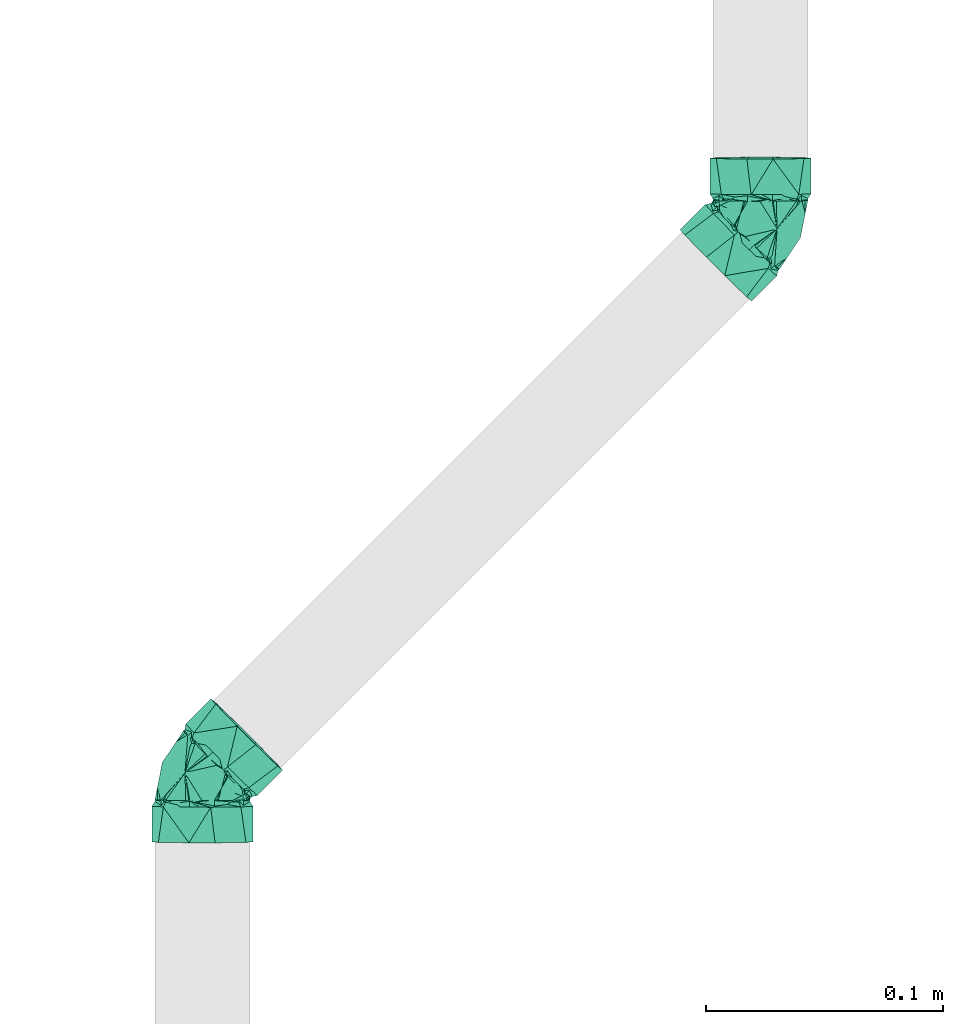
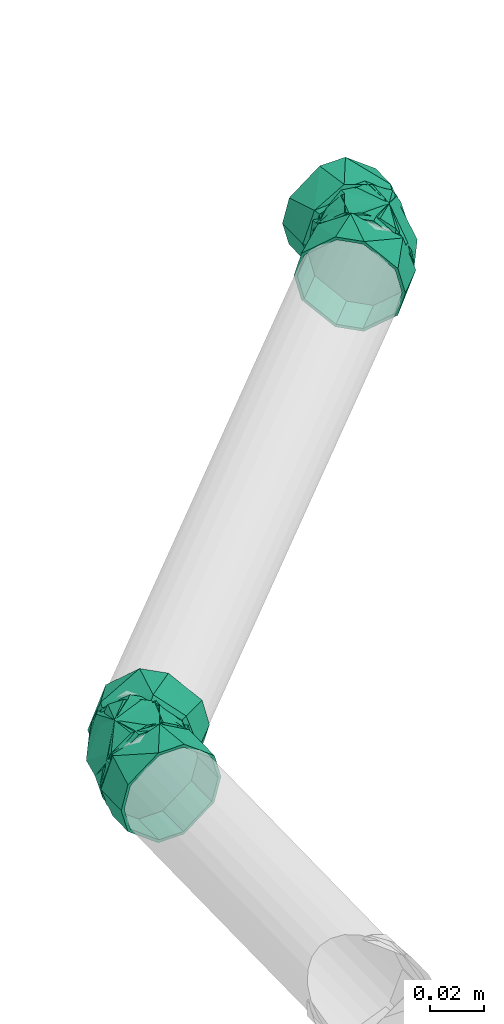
# One storey, part 355 of 589: 2 flow fittings.
"""IFC2X3 building model written with IfcOpenShell, lengths in millimetres."""

import ifcopenshell
import ifcopenshell.guid

model = None  # the IFC model being written
_history = None  # IfcOwnerHistory: only IFC2X3 demands one
_inside = {}  # id of a spatial element -> (the spatial element, [elements in it])
_under = {}  # id of a project, library or spatial element -> (it, [spatial elements below it])
_declared = {}  # id of a project -> (the project, [libraries it declares])
_typed = {}  # id of a type object -> (the type object, [elements of that type])
_made_of = {}  # id of a material, layer set ... -> (it, [elements and type objects made of it])


def new_model(schema):
    """Start an empty IFC model of exactly this schema.

    Asked for "IFC4X3", IfcOpenShell would pick the latest addendum, in which some entities
    have other attributes; the version numbers below select the first issue.
    IFC2X3 requires an IfcOwnerHistory on every rooted entity: one is made here for all.
    """
    global model, _history
    if schema == "IFC4X3":
        model = ifcopenshell.file(schema_version=(4, 3, 0, 0))
    else:
        model = ifcopenshell.file(schema=schema)
    _inside.clear()
    _under.clear()
    _declared.clear()
    _typed.clear()
    _made_of.clear()
    _history = None
    if model.schema == "IFC2X3":
        org = make("IfcOrganization", Name="unknown")
        user = make(
            "IfcPersonAndOrganization",
            ThePerson=make("IfcPerson", FamilyName="unknown"),
            TheOrganization=org,
        )
        app = make(
            "IfcApplication",
            ApplicationDeveloper=org,
            Version="unknown",
            ApplicationFullName="unknown",
            ApplicationIdentifier="unknown",
        )
        _history = make(
            "IfcOwnerHistory",
            OwningUser=user,
            OwningApplication=app,
            ChangeAction="ADDED",
            CreationDate=0,
        )
    return model


def make(cls, **values):
    """One entity of the class cls with the attributes given. An attribute that is None is left unset."""
    return model.create_entity(
        cls, **{name: value for name, value in values.items() if value is not None}
    )


def entity(cls, *values):
    """Any entity or typed value of the class cls, its attributes in the order of the schema. None: left unset."""
    e = model.create_entity(cls)
    for i, value in enumerate(values):
        if value is not None:
            e[i] = value
    return e


def rooted(cls, **values):
    """An entity with a GlobalId (a new one), such as an element, a storey or a relation."""
    return make(cls, GlobalId=ifcopenshell.guid.new(), OwnerHistory=_history, **values)


def si_unit(unit_type, name, prefix=None):
    """IfcSIUnit, for example si_unit("LENGTHUNIT", "METRE", prefix="MILLI")."""
    return make("IfcSIUnit", UnitType=unit_type, Prefix=prefix, Name=name)


def converted_unit(unit_type, name, factor, base, dimensions=None, offset=None):
    """IfcConversionBasedUnit, such as the inch: factor (a typed value) times the base unit."""
    return make(
        "IfcConversionBasedUnit"
        if offset is None
        else "IfcConversionBasedUnitWithOffset",
        ConversionOffset=offset,
        Dimensions=None
        if dimensions is None
        else entity("IfcDimensionalExponents", *dimensions),
        UnitType=unit_type,
        Name=name,
        ConversionFactor=make(
            "IfcMeasureWithUnit", ValueComponent=factor, UnitComponent=base
        ),
    )


def derived_unit(unit_type, elements):
    """IfcDerivedUnit: a product of units, each with its exponent."""
    return make(
        "IfcDerivedUnit",
        Elements=[
            make("IfcDerivedUnitElement", Unit=unit, Exponent=power)
            for unit, power in elements
        ],
        UnitType=unit_type,
    )


def assignment(units):
    """IfcUnitAssignment: the units of a project."""
    return None if units is None else make("IfcUnitAssignment", Units=units)


def point(xyz):
    """IfcCartesianPoint."""
    return None if xyz is None else make("IfcCartesianPoint", Coordinates=xyz)


def direction(xyz):
    """IfcDirection."""
    return None if xyz is None else make("IfcDirection", DirectionRatios=xyz)


def frame(location, z_axis=None, x_axis=None):
    """IfcAxis2Placement3D, a coordinate frame: its origin and axes. An axis left out is left unset."""
    return make(
        "IfcAxis2Placement3D",
        Location=point(location),
        Axis=direction(z_axis),
        RefDirection=direction(x_axis),
    )


def origin():
    """The frame at (0, 0, 0) with its axes left unset."""
    return frame((0.0, 0.0, 0.0))


def place(relative_to, where):
    """IfcLocalPlacement: puts the frame where relative to a parent placement (None: the world)."""
    return make(
        "IfcLocalPlacement", PlacementRelTo=relative_to, RelativePlacement=where
    )


def context(
    kind, dimensions, precision=None, world=None, true_north=None, identifier=None
):
    """IfcGeometricRepresentationContext, for example the 3D "Model" context."""
    return make(
        "IfcGeometricRepresentationContext",
        ContextIdentifier=identifier,
        ContextType=kind,
        CoordinateSpaceDimension=dimensions,
        Precision=precision,
        WorldCoordinateSystem=world,
        TrueNorth=true_north,
    )


def subcontext(parent, identifier, kind, view, scale=None):
    """IfcGeometricRepresentationSubContext, for example "Body" below "Model"."""
    return make(
        "IfcGeometricRepresentationSubContext",
        ContextIdentifier=identifier,
        ContextType=kind,
        ParentContext=parent,
        TargetScale=scale,
        TargetView=view,
    )


def project(units=None, contexts=None):
    """IfcProject with its units and contexts."""
    return rooted(
        "IfcProject",
        Name="project",
        RepresentationContexts=contexts,
        UnitsInContext=assignment(units),
    )


def spatial(cls, under=None, at=None, **own):
    """A site, building, storey or space (cls), placed at a placement, below another one or the project."""
    s = rooted(cls, ObjectPlacement=at, **own)
    if under is not None:
        _under.setdefault(under.id(), (under, []))[1].append(s)
    return s


def faces_of(points, faces, orient=None, outer=None):
    """IfcFace entities. A face is a list of loops; a loop is a list of indices into points, from 0.

    orient and outer hold one flag for each loop. By default every Orientation is true, the
    first loop of a face is its IfcFaceOuterBound and the others are IfcFaceBound.
    """
    made = []
    for i, loops in enumerate(faces):
        bounds = []
        for j, loop in enumerate(loops):
            is_outer = j == 0 if outer is None else outer[i][j]
            bounds.append(
                make(
                    "IfcFaceOuterBound" if is_outer else "IfcFaceBound",
                    Bound=make("IfcPolyLoop", Polygon=[points[k] for k in loop]),
                    Orientation=True if orient is None else orient[i][j],
                )
            )
        made.append(make("IfcFace", Bounds=bounds))
    return made


def faceted_brep(points, faces, orient=None, outer=None, voids=None):
    """IfcFacetedBrep: a solid bounded by flat faces; with voids (closed shells), ...WithVoids."""
    shared = [point(p) for p in points]
    hull = make("IfcClosedShell", CfsFaces=faces_of(shared, faces, orient, outer))
    if voids is None:
        return make("IfcFacetedBrep", Outer=hull)
    return make(
        "IfcFacetedBrepWithVoids",
        Outer=hull,
        Voids=[
            make(cls, CfsFaces=faces_of(shared, fs, o, b)) for cls, fs, o, b in voids
        ],
    )


def shape(context_of_items, identifier, shape_type, items):
    """IfcShapeRepresentation: the items that make up one representation, for example the "Body"."""
    return make(
        "IfcShapeRepresentation",
        ContextOfItems=context_of_items,
        RepresentationIdentifier=identifier,
        RepresentationType=shape_type,
        Items=items,
    )


def source(mapping_origin, context_of_items, identifier, shape_type, items):
    """IfcRepresentationMap: a shape defined once, which mapped items show again and again."""
    return make(
        "IfcRepresentationMap",
        MappingOrigin=mapping_origin,
        MappedRepresentation=shape(context_of_items, identifier, shape_type, items),
    )


def transform(
    local_origin,
    x_axis=None,
    y_axis=None,
    z_axis=None,
    scale=None,
    scale2=None,
    scale3=None,
    uniform=True,
):
    """IfcCartesianTransformationOperator3D, or its non-uniform kind. x_axis, y_axis, z_axis: its Axis1, 2, 3."""
    if uniform:
        return make(
            "IfcCartesianTransformationOperator3D",
            Axis1=direction(x_axis),
            Axis2=direction(y_axis),
            LocalOrigin=point(local_origin),
            Scale=scale,
            Axis3=direction(z_axis),
        )
    return make(
        "IfcCartesianTransformationOperator3DnonUniform",
        Axis1=direction(x_axis),
        Axis2=direction(y_axis),
        LocalOrigin=point(local_origin),
        Scale=scale,
        Axis3=direction(z_axis),
        Scale2=scale2,
        Scale3=scale3,
    )


def mapped(mapping_source, mapping_target):
    """IfcMappedItem: shows the shape of a source again, moved by a transform."""
    return make(
        "IfcMappedItem", MappingSource=mapping_source, MappingTarget=mapping_target
    )


def material(Name=None, Category=None):
    """IfcMaterial."""
    return make("IfcMaterial", Name=Name, Category=Category)


def made_of(thing, what):
    """Note that an element or type object is made of a material, layer set ...; save() writes the relation."""
    if what is not None:
        _made_of.setdefault(what.id(), (what, []))[1].append(thing)
    return thing


def type_object(cls, material=None, **own):
    """A type object (cls), such as IfcWallType, which elements share."""
    return made_of(rooted(cls, **own), material)


def type_shapes(of_type, sources):
    """Give a type object the sources (RepresentationMaps) that its elements show as mapped items."""
    of_type.RepresentationMaps = sources


def element(
    cls,
    number,
    at=None,
    inside=None,
    cuts=None,
    type_object=None,
    material=None,
    context=None,
    identifier="Body",
    shape_type=None,
    held_by="IfcProductDefinitionShape",
    body=None,
    shapes=None,
    **own,
):
    """One element of the class cls, such as IfcWall. Its Tag is "e" and its number.

    at: its placement. inside: the storey or other place that contains it. cuts: it is an
    opening in that element (IfcRelVoidsElement). A single representation is given by context,
    identifier, shape_type and body (its items); several are given by shapes. held_by: the class
    of the entity that holds the representations. save() writes the other relations.
    """
    e = rooted(cls, Tag="e%d" % number, ObjectPlacement=at, **own)
    if body is not None:
        shapes = [shape(context, identifier, shape_type, body)]
    if shapes is not None:
        e.Representation = make(held_by, Representations=shapes)
    if inside is not None:
        _inside.setdefault(inside.id(), (inside, []))[1].append(e)
    if cuts is not None:
        rooted(
            "IfcRelVoidsElement", RelatingBuildingElement=cuts, RelatedOpeningElement=e
        )
    if type_object is not None:
        _typed.setdefault(type_object.id(), (type_object, []))[1].append(e)
    return made_of(e, material)


def aggregate(whole, parts):
    """IfcRelAggregates: a whole, such as a stair, and the parts it consists of."""
    return rooted("IfcRelAggregates", RelatingObject=whole, RelatedObjects=parts)


def save(model, path):
    """Write the relations noted so far, then the file.

    IfcRelAggregates (storeys below a building ...), IfcRelContainedInSpatialStructure (elements
    in a storey), IfcRelDefinesByType, IfcRelAssociatesMaterial and IfcRelDeclares: one each for
    every whole, place, type object, material and project.
    """
    for whole, parts in _under.values():
        aggregate(whole, parts)
    for where, things in _inside.values():
        rooted(
            "IfcRelContainedInSpatialStructure",
            RelatedElements=things,
            RelatingStructure=where,
        )
    for kind, things in _typed.values():
        rooted("IfcRelDefinesByType", RelatedObjects=things, RelatingType=kind)
    for what, things in _made_of.values():
        rooted("IfcRelAssociatesMaterial", RelatedObjects=things, RelatingMaterial=what)
    for by, libraries in _declared.values():
        rooted("IfcRelDeclares", RelatingContext=by, RelatedDefinitions=libraries)
    model.write(path)


model = new_model("IFC2X3")

# Units and contexts
model_context = context("Model", 3, precision=0.01, world=origin(), true_north=direction((6.123031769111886e-17, 1.0)))
body_context = subcontext(model_context, "Body", "Model", "MODEL_VIEW")
ifc_project = project(units=[si_unit("LENGTHUNIT", "METRE", prefix="MILLI"), si_unit("AREAUNIT", "SQUARE_METRE"), si_unit("VOLUMEUNIT", "CUBIC_METRE"), converted_unit("PLANEANGLEUNIT", "DEGREE", entity("IfcRatioMeasure", 0.017453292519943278), si_unit("PLANEANGLEUNIT", "RADIAN"), dimensions=[0, 0, 0, 0, 0, 0, 0]), si_unit("MASSUNIT", "GRAM", prefix="KILO"), derived_unit("MASSDENSITYUNIT", [(si_unit("MASSUNIT", "GRAM", prefix="KILO"), 1), (si_unit("LENGTHUNIT", "METRE"), -3)]), derived_unit("IONCONCENTRATIONUNIT", [(si_unit("MASSUNIT", "GRAM", prefix="KILO"), 1), (si_unit("LENGTHUNIT", "METRE"), -3)]), derived_unit("MOMENTOFINERTIAUNIT", [(si_unit("LENGTHUNIT", "METRE"), 4)]), si_unit("TIMEUNIT", "SECOND"), si_unit("FREQUENCYUNIT", "HERTZ"), si_unit("THERMODYNAMICTEMPERATUREUNIT", "DEGREE_CELSIUS"), derived_unit("THERMALTRANSMITTANCEUNIT", [(si_unit("MASSUNIT", "GRAM", prefix="KILO"), 1), (si_unit("THERMODYNAMICTEMPERATUREUNIT", "KELVIN"), -1), (si_unit("TIMEUNIT", "SECOND"), -3)]), derived_unit("THERMALCONDUCTANCEUNIT", [(si_unit("MASSUNIT", "GRAM", prefix="KILO"), 1), (si_unit("THERMODYNAMICTEMPERATUREUNIT", "KELVIN"), -1), (si_unit("TIMEUNIT", "SECOND"), -3), (si_unit("LENGTHUNIT", "METRE"), 1)]), derived_unit("VOLUMETRICFLOWRATEUNIT", [(si_unit("LENGTHUNIT", "METRE"), 3), (si_unit("TIMEUNIT", "SECOND"), -1)]), derived_unit("MASSFLOWRATEUNIT", [(si_unit("MASSUNIT", "GRAM", prefix="KILO"), 1), (si_unit("TIMEUNIT", "SECOND"), -1)]), derived_unit("ROTATIONALFREQUENCYUNIT", [(si_unit("TIMEUNIT", "SECOND"), -1)]), si_unit("ELECTRICCURRENTUNIT", "AMPERE"), si_unit("ELECTRICVOLTAGEUNIT", "VOLT"), si_unit("POWERUNIT", "WATT"), si_unit("FORCEUNIT", "NEWTON", prefix="KILO"), si_unit("ILLUMINANCEUNIT", "LUX"), si_unit("LUMINOUSFLUXUNIT", "LUMEN"), si_unit("LUMINOUSINTENSITYUNIT", "CANDELA"), derived_unit("USERDEFINED", [(si_unit("MASSUNIT", "GRAM", prefix="KILO"), -1), (si_unit("LENGTHUNIT", "METRE"), -2), (si_unit("TIMEUNIT", "SECOND"), 3), (si_unit("LUMINOUSFLUXUNIT", "LUMEN"), 1)]), derived_unit("USERDEFINED", [(si_unit("MASSUNIT", "GRAM", prefix="KILO"), 1), (si_unit("TIMEUNIT", "SECOND"), -3), (si_unit("LENGTHUNIT", "METRE"), 3), (si_unit("ELECTRICCURRENTUNIT", "AMPERE"), -2)]), derived_unit("SOUNDPOWERUNIT", [(si_unit("MASSUNIT", "GRAM", prefix="KILO"), 1), (si_unit("TIMEUNIT", "SECOND"), -3), (si_unit("LENGTHUNIT", "METRE"), 2)]), derived_unit("SOUNDPRESSUREUNIT", [(si_unit("MASSUNIT", "GRAM", prefix="KILO"), 1), (si_unit("LENGTHUNIT", "METRE"), -1), (si_unit("TIMEUNIT", "SECOND"), -2)]), derived_unit("LINEARVELOCITYUNIT", [(si_unit("LENGTHUNIT", "METRE"), 1), (si_unit("TIMEUNIT", "SECOND"), -1)]), si_unit("PRESSUREUNIT", "PASCAL"), derived_unit("USERDEFINED", [(si_unit("MASSUNIT", "GRAM", prefix="KILO"), 1), (si_unit("LENGTHUNIT", "METRE"), -2), (si_unit("TIMEUNIT", "SECOND"), -2)]), derived_unit("LINEARFORCEUNIT", [(si_unit("MASSUNIT", "GRAM", prefix="KILO"), 1), (si_unit("TIMEUNIT", "SECOND"), -2)]), derived_unit("PLANARFORCEUNIT", [(si_unit("MASSUNIT", "GRAM", prefix="KILO"), 1), (si_unit("LENGTHUNIT", "METRE"), -1), (si_unit("TIMEUNIT", "SECOND"), -2)]), derived_unit("SPECIFICHEATCAPACITYUNIT", [(si_unit("THERMODYNAMICTEMPERATUREUNIT", "KELVIN"), -1), (si_unit("LENGTHUNIT", "METRE"), 2), (si_unit("TIMEUNIT", "SECOND"), -2)]), derived_unit("HEATINGVALUEUNIT", [(si_unit("LENGTHUNIT", "METRE"), 2), (si_unit("TIMEUNIT", "SECOND"), -2)]), derived_unit("VAPORPERMEABILITYUNIT", [(si_unit("LENGTHUNIT", "METRE"), -1), (si_unit("TIMEUNIT", "SECOND"), 1)]), derived_unit("DYNAMICVISCOSITYUNIT", [(si_unit("MASSUNIT", "GRAM", prefix="KILO"), 1), (si_unit("TIMEUNIT", "SECOND"), -1), (si_unit("LENGTHUNIT", "METRE"), -1)]), derived_unit("THERMALEXPANSIONCOEFFICIENTUNIT", [(si_unit("THERMODYNAMICTEMPERATUREUNIT", "KELVIN"), -1)]), derived_unit("MODULUSOFELASTICITYUNIT", [(si_unit("MASSUNIT", "GRAM", prefix="KILO"), 1), (si_unit("LENGTHUNIT", "METRE"), -1), (si_unit("TIMEUNIT", "SECOND"), -2)]), derived_unit("ISOTHERMALMOISTURECAPACITYUNIT", [(si_unit("LENGTHUNIT", "METRE"), 3), (si_unit("MASSUNIT", "GRAM", prefix="KILO"), -1)]), derived_unit("MOISTUREDIFFUSIVITYUNIT", [(si_unit("TIMEUNIT", "SECOND"), -1), (si_unit("LENGTHUNIT", "METRE"), 2)])], contexts=[model_context])

# Site, building, storey
site_placement = place(None, origin())
site = spatial("IfcSite", under=ifc_project, at=site_placement, Name="Default", CompositionType="ELEMENT")
building_placement = place(site_placement, origin())
building = spatial("IfcBuilding", under=site, at=building_placement, CompositionType="ELEMENT")
storey_placement = place(building_placement, frame((0.0, 0.0, 100.0)))
storey = spatial("IfcBuildingStorey", under=building, at=storey_placement, Name="TÉRREO", CompositionType="ELEMENT", Elevation=100.0)

# Flow fittings
ifc_material = material(Name="PVC Série Normal")
pipe_fitting_type = type_object("IfcPipeFittingType", Name="PVC Esgoto_Joelho 45_90_Rodrigo MEP:a. Série Normal", PredefinedType="NOTDEFINED", material=ifc_material)
shared_shape = source(origin(), body_context, "Body", "Brep", [
    faceted_brep([(2.4906876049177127, 9.80915852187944, 19.318516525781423), (-6.095084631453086, 18.39777540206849, 10.0), (-7.989457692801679, 20.29277610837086, 0.0), (-6.095084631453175, 18.397775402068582, -10.0), (2.4906876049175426, 9.80915852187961, -19.31851652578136), (9.809983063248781, 2.4874380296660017, -19.318516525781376), (18.39575529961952, -6.101178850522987, -10.0), (20.290128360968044, -7.99617955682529, 0.0), (18.39575529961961, -6.101178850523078, 10.0), (9.809983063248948, 2.4874380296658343, 19.318516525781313), (22.27035525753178, -6.016608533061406, 0.0), (20.37598219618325, -4.121607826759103, -10.0), (11.790209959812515, 4.467009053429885, -19.318516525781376), (4.470914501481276, 11.788729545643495, -19.31851652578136), (-4.1148577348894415, 20.377346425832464, -10.0), (-6.009230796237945, 22.272347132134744, 0.0), (-4.114857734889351, 20.377346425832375, 10.0), (4.470914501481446, 11.788729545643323, 19.318516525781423), (11.790209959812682, 4.467009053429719, 19.318516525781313), (20.37598219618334, -4.12160782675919, 10.0)], [[[0, 1, 2, 3, 4, 5, 6, 7, 8, 9]], [[10, 11, 12, 13, 14, 15, 16, 17, 18, 19]], [[7, 10, 19, 8]], [[8, 19, 18, 9]], [[18, 17, 0, 9]], [[0, 17, 16, 1]], [[1, 16, 15, 2]], [[2, 15, 14, 3]], [[3, 14, 13, 4]], [[13, 12, 5, 4]], [[5, 12, 11, 6]], [[6, 11, 10, 7]]]),
    faceted_brep([(-11.496447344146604, -17.320508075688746, -10.0), (-11.496447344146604, -20.0, 0.0), (-11.496447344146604, -17.320508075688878, 10.0), (-11.496447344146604, -5.176380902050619, 19.318516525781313), (-11.496447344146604, 5.1763809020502, 19.318516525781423), (-11.496447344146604, 17.320508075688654, 10.0), (-11.496447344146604, 20.0, 0.0), (-11.496447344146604, 17.320508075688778, -10.0), (-11.496447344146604, 5.17638090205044, -19.31851652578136), (-11.496447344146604, -5.176380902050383, -19.318516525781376), (-8.696447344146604, 5.17638090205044, -19.31851652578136), (-8.696447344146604, 17.320508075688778, -10.0), (-8.696447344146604, 20.0, 0.0), (-8.696447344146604, 17.320508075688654, 10.0), (-8.696447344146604, 5.1763809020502, 19.318516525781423), (-8.696447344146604, -5.176380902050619, 19.318516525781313), (-8.696447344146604, -17.320508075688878, 10.0), (-8.696447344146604, -20.0, 0.0), (-8.696447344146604, -17.320508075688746, -10.0), (-8.696447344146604, -5.176380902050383, -19.318516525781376)], [[[0, 1, 2, 3, 4, 5, 6, 7, 8, 9]], [[10, 11, 12, 13, 14, 15, 16, 17, 18, 19]], [[1, 17, 16, 2]], [[2, 16, 15, 3]], [[15, 14, 4, 3]], [[4, 14, 13, 5]], [[5, 13, 12, 6]], [[6, 12, 11, 7]], [[7, 11, 10, 8]], [[10, 19, 9, 8]], [[9, 19, 18, 0]], [[0, 18, 17, 1]]]),
    faceted_brep([(-26.496447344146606, -5.512845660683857, -20.574220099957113), (-26.496447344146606, -5.176380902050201, -19.318516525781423), (-26.496447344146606, 5.176380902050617, -19.318516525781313), (-26.496447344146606, -18.44634110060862, -10.649999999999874), (-26.496447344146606, 5.512845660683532, -20.574220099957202), (-26.496447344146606, -17.320508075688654, -10.0), (-26.496447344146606, -20.0, 0.0), (-26.496447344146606, -21.3, 0.0), (-26.496447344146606, -17.32050807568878, 10.0), (-26.496447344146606, -18.446341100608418, 10.65000000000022), (-26.496447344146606, -5.176380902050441, 19.31851652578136), (-26.496447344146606, -5.512845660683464, 20.574220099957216), (-26.496447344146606, 5.176380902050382, 19.318516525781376), (-26.496447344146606, 5.512845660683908, 20.5742200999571), (-26.496447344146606, 17.320508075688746, 10.0), (-26.496447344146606, 18.446341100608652, 10.649999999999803), (-26.496447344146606, 21.3, 0.0), (-26.496447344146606, 20.0, 0.0), (-26.496447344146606, 18.44634110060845, -10.650000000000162), (-26.496447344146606, 17.320508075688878, -10.0), (-11.496447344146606, 17.320508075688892, -10.0), (-11.496447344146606, 20.0, 0.0), (-11.496447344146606, 5.17638090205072, -19.318516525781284), (-11.496447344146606, -5.176380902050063, -19.31851652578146), (-11.496447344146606, -17.320508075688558, -10.0), (-11.496447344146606, -20.0, 0.0), (-11.496447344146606, -17.320508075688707, 10.0), (-11.496447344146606, -5.176380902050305, 19.318516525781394), (-11.496447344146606, 5.176380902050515, 19.318516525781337), (-11.496447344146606, 17.320508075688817, 10.0), (-11.496447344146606, 21.3, 0.0), (-11.496447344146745, 16.315983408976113, 13.692285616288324), (-11.496447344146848, 3.696367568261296, 20.976817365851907), (-11.496447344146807, -16.31941754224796, 13.688192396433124), (-11.496447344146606, -21.3, 0.0), (-11.496447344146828, -6.311524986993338, 17.3325048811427), (-11.496447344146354, -16.319417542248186, -13.688192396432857), (-11.496447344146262, -3.7016293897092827, -20.975889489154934), (-11.49644734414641, 16.315983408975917, -13.692285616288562), (-11.496447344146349, 6.307177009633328, -17.334087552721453), (-9.496447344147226, -3.470767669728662, -19.69654212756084), (-9.496447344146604, 20.0, 0.0), (-9.496447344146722, 18.830849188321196, -3.2131907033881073), (-9.496447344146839, 17.66169837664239, -6.426381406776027), (-9.496447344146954, 16.4925475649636, -9.639572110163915), (-9.496447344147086, 15.323396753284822, -12.852762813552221), (-9.496447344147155, 5.9263145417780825, -16.27465247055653), (-9.496447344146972, -15.320172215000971, -12.856606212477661), (-9.496447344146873, -16.490129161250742, -9.642454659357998), (-9.496447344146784, -17.660086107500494, -6.428303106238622), (-9.496447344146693, -18.830043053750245, -3.214151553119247), (-9.496447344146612, -20.0, 0.0), (-9.496447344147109, 10.624855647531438, -14.563707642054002), (-9.496447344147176, 1.2277734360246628, -17.98559729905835), (-9.49644734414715, -6.433118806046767, -17.98655814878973), (-9.496447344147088, -9.395469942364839, -16.276574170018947), (-9.496447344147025, -12.357821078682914, -14.566590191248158), (-9.49644734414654, -18.830043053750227, 3.2141515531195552), (-9.496447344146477, -17.660086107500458, 6.428303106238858), (-9.49644734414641, -16.490129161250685, 9.64245465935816), (-9.496447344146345, -15.3201722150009, 12.856606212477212), (-9.496447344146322, -12.970687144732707, 13.711489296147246), (-9.496447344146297, -10.621202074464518, 14.566372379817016), (-9.496447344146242, -5.922231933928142, 16.27613854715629), (-9.496447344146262, 15.323396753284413, 12.852762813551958), (-9.496447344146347, 16.49254756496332, 9.63957211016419), (-9.496447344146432, 17.661698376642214, 6.426381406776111), (-9.496447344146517, 18.830849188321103, 3.213190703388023), (-9.496447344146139, 3.47570834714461, 19.695670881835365), (-9.496447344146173, 6.43763044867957, 17.984943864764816), (-9.496447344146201, 9.399552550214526, 16.274216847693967), (-9.496447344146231, 12.361474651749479, 14.563489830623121), (-9.496447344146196, -1.2232617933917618, 17.985904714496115), (-8.696447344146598, 17.057389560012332, 9.848048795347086), (-8.696447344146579, 6.840479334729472, 18.793824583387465), (-8.696447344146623, -9.848049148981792, 17.057385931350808), (-8.696447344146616, -3.420183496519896, 19.396932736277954), (-8.696447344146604, 0.0, 20.0), (-8.696447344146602, 19.396930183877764, 3.4201905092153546), (-8.696447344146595, 15.320918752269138, 12.855716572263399), (-8.696447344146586, 11.080699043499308, 15.82477057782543), (-8.696447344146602, 18.793860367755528, 6.840381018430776), (-8.696447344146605, -18.793848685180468, 6.840413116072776), (-8.696447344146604, 20.0, 0.0), (-8.696447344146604, -20.0, 0.0), (-8.69644734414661, -15.824789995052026, 11.080659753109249), (-8.696447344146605, -19.156924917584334, 4.781308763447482), (-8.696447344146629, -6.84036699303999, 18.793865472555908), (-8.696447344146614, -14.34026064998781, 13.200783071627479), (-8.696447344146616, -12.855731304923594, 15.320906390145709), (-8.696447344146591, 3.420239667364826, 19.396912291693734), (-8.696447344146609, -17.057361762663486, -9.848091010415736), (-8.696447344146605, -18.793848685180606, -6.840413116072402), (-8.696447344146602, 19.39693018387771, -3.4201905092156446), (-8.696447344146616, -3.420183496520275, -19.396932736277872), (-8.696447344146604, 0.0, -20.0), (-8.696447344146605, -19.396924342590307, -3.4202065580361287), (-8.696447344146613, -15.320874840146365, -12.85576890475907), (-8.69644734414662, -11.080620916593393, -15.824817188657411), (-8.696447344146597, 15.824828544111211, -11.080616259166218), (-8.696447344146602, 18.79386036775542, -6.84038101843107), (-8.696447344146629, -6.840366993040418, -18.79386547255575), (-8.696447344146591, 12.855796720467, -15.320851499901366), (-8.696447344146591, 3.420239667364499, -19.396912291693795), (-8.696447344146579, 6.840479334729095, -18.7938245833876), (-8.696447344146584, 9.848138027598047, -17.05733804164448), (9.809983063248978, 2.4874380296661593, -19.318516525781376), (2.4906876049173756, 9.809158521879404, -19.31851652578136), (-6.095084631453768, 18.397775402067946, -10.0), (-7.989457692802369, 20.292776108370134, 0.0), (-6.095084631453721, 18.3977754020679, 10.0), (2.490687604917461, 9.809158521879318, 19.31851652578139), (9.809983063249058, 2.487438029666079, 19.318516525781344), (18.395755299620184, -6.101178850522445, 10.0), (20.29012836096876, -7.996179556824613, 0.0), (18.39575529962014, -6.101178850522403, -10.0), (-2.9114305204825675, -18.849537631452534, 0.0), (15.385461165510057, -11.272492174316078, 0.0), (2.8664382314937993, -7.211469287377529, 17.605576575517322), (6.9904363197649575, -16.880360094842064, 0.0), (-8.313840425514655, 20.076088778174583, 0.0), (2.8664382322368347, -7.211469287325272, -17.605576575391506)], [[[0, 1, 2]], [[1, 0, 3]], [[2, 4, 0]], [[3, 5, 1]], [[3, 6, 5]], [[6, 3, 7]], [[8, 6, 7]], [[8, 7, 9]], [[9, 10, 8]], [[9, 11, 10]], [[10, 11, 12]], [[13, 12, 11]], [[13, 14, 12]], [[14, 13, 15]], [[16, 14, 15]], [[17, 14, 16]], [[18, 17, 16]], [[18, 19, 17]], [[19, 18, 4]], [[4, 2, 19]], [[20, 21, 17, 19]], [[22, 20, 19, 2]], [[2, 1, 23, 22]], [[24, 23, 1, 5]], [[25, 24, 5, 6]], [[26, 25, 6, 8]], [[27, 26, 8, 10]], [[10, 12, 28, 27]], [[29, 28, 12, 14]], [[21, 29, 14, 17]], [[16, 15, 30]], [[15, 31, 30]], [[31, 15, 13]], [[31, 13, 32]], [[33, 11, 9]], [[34, 9, 7]], [[11, 33, 35, 32]], [[33, 9, 34]], [[11, 32, 13]], [[7, 3, 34]], [[3, 36, 34]], [[36, 3, 0]], [[36, 0, 37]], [[38, 4, 18]], [[30, 18, 16]], [[4, 38, 39, 37]], [[38, 18, 30]], [[4, 37, 0]], [[28, 29, 21, 20, 22, 23, 24, 25, 26, 27]], [[39, 40, 37]], [[30, 41, 42, 43, 44, 45]], [[30, 45, 38]], [[38, 46, 39]], [[36, 47, 48, 49, 50, 51]], [[38, 45, 52, 46]], [[36, 37, 47]], [[34, 36, 51]], [[39, 46, 53, 40]], [[37, 40, 54, 55, 56, 47]], [[33, 51, 57, 58, 59, 60]], [[33, 34, 51]], [[60, 35, 33]], [[35, 60, 61, 62, 63]], [[63, 32, 35]], [[30, 64, 65, 66, 67, 41]], [[31, 68, 69, 70, 71, 64]], [[31, 64, 30]], [[32, 63, 72, 68]], [[68, 31, 32]], [[64, 73, 65]], [[74, 70, 69, 68]], [[62, 75, 63]], [[76, 77, 72]], [[78, 67, 66]], [[79, 71, 80]], [[65, 81, 66]], [[64, 79, 73]], [[82, 59, 58]], [[83, 41, 67]], [[84, 57, 51]], [[60, 59, 85]], [[83, 67, 78]], [[86, 82, 58]], [[81, 65, 73]], [[63, 87, 76]], [[63, 76, 72]], [[63, 75, 87]], [[82, 85, 59]], [[68, 72, 77]], [[66, 81, 78]], [[61, 88, 89]], [[89, 62, 61]], [[68, 77, 90, 74]], [[84, 86, 57]], [[86, 58, 57]], [[89, 75, 62]], [[61, 60, 88]], [[60, 85, 88]], [[74, 80, 70]], [[71, 79, 64]], [[71, 70, 80]], [[49, 91, 92]], [[93, 43, 42]], [[54, 40, 94]], [[40, 53, 95]], [[51, 96, 84]], [[97, 56, 98]], [[48, 97, 91]], [[91, 49, 48]], [[99, 44, 100]], [[101, 55, 54]], [[96, 51, 50]], [[83, 42, 41]], [[45, 99, 102]], [[49, 92, 50]], [[42, 83, 93]], [[48, 47, 97]], [[53, 103, 95]], [[104, 103, 46]], [[52, 105, 46]], [[44, 99, 45]], [[46, 103, 53]], [[50, 92, 96]], [[105, 52, 102]], [[44, 43, 100]], [[40, 95, 94]], [[100, 43, 93]], [[102, 52, 45]], [[105, 104, 46]], [[101, 98, 55]], [[54, 94, 101]], [[56, 97, 47]], [[56, 55, 98]], [[106, 107, 108, 109, 110, 111, 112, 113, 114, 115]], [[116, 89, 88, 85, 82]], [[117, 118, 119]], [[118, 89, 119]], [[118, 77, 76, 87]], [[116, 82, 86, 84]], [[118, 74, 90, 77]], [[110, 81, 73, 79]], [[111, 79, 80, 74]], [[118, 87, 75, 89]], [[89, 116, 119]], [[74, 118, 111]], [[118, 113, 112]], [[118, 117, 113]], [[120, 83, 78, 81]], [[81, 109, 120]], [[109, 81, 110]], [[117, 114, 113]], [[111, 110, 79]], [[111, 118, 112]], [[104, 107, 121]], [[116, 92, 91, 97]], [[108, 102, 99, 100]], [[115, 121, 106]], [[97, 121, 119]], [[107, 104, 105, 102]], [[116, 84, 96, 92]], [[97, 119, 116]], [[121, 97, 98, 101]], [[121, 95, 103, 104]], [[109, 100, 120]], [[108, 100, 109]], [[107, 102, 108]], [[121, 101, 94, 95]], [[107, 106, 121]], [[119, 121, 117]], [[115, 117, 121]], [[115, 114, 117]], [[120, 100, 93, 83]]]),
    faceted_brep([(-6.009230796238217, 22.27234713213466, 0.0), (-4.114857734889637, 20.37734642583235, 10.0), (4.470914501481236, 11.788729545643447, 19.318516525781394), (11.790209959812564, 4.467009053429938, 19.318516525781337), (20.375982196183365, -4.1216078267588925, 10.0), (22.27035525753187, -6.016608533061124, 0.0), (20.37598219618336, -4.121607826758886, -10.0), (11.790209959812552, 4.467009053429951, -19.318516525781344), (4.470914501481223, 11.788729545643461, -19.31851652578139), (-4.114857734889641, 20.377346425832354, -10.0), (23.18944180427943, -6.935999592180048, 0.0), (20.855907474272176, -7.430587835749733, 0.0), (20.02932994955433, -6.603736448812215, -3.213190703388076), (19.20275242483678, -5.7768850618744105, -6.426381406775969), (18.376174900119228, -4.950033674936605, -9.639572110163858), (17.54959737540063, -4.123182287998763, -12.852762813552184), (3.6683793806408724, 12.591530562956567, -17.332504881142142), (10.743855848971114, 5.513709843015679, -20.976817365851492), (4.26231762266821, 9.168499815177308, -19.69654212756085), (19.665793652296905, -3.411183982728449, -13.692285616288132), (-4.115088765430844, 17.54868181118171, -12.856606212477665), (-3.407097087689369, 19.669351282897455, -13.688192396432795), (2.167966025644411, 11.263545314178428, -17.986558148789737), (0.0736144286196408, 13.358590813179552, -16.27657417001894), (-2.0207371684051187, 15.453636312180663, -14.566590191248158), (10.905957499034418, 2.5226587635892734, -16.274652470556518), (-4.942236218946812, 18.37610331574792, -9.642454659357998), (-5.7693836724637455, 19.203524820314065, -6.428303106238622), (-6.596531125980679, 20.030946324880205, -3.2141515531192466), (-7.423678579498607, 20.858367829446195, 0.0), (-6.928317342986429, 23.191738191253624, 0.0), (14.227777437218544, -0.800261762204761, -14.563707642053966), (7.584137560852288, 5.845579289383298, -17.98559729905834), (-3.4070970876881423, 19.669351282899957, 13.688192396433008), (-6.596531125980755, 20.030946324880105, 3.2141515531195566), (-5.7693836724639, 19.20352482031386, 6.428303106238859), (-4.942236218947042, 18.37610331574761, 9.64245465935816), (-4.115088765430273, 17.548681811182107, 12.856606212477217), (12.589671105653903, 3.6672830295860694, 17.334087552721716), (5.513548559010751, 10.745750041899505, 20.97588948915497), (9.173404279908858, 4.255786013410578, 19.695670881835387), (17.549597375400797, -4.123182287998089, 12.852762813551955), (19.66579365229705, -3.4111839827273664, 13.692285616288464), (11.267452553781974, 2.1610439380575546, 17.984943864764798), (13.361500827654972, 0.0663018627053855, 16.274216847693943), (15.455549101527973, -2.028440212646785, 14.563489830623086), (2.5291577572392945, 10.902233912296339, 16.276138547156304), (18.376174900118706, -4.950033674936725, 9.639572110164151), (19.202752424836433, -5.77688506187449, 6.426381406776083), (20.029329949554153, -6.603736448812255, 3.2131907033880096), (-2.4540271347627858, 15.887069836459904, 13.711489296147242), (-0.7929655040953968, 14.225457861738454, 14.566372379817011), (5.851281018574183, 7.579009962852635, 17.985904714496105), (14.841395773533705, 22.631530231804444, -20.574220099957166), (15.079272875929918, 22.39357431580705, -19.318516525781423), (22.398568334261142, 15.071853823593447, -19.318516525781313), (5.697548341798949, 31.77840720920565, -10.649999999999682), (22.63644543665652, 14.833897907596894, -20.574220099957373), (6.493500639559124, 30.982191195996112, -10.0), (4.599127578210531, 32.877191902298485, 0.0), (3.6800410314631, 33.79658296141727, 0.0), (6.493500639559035, 30.9821911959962, 10.0), (5.69754834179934, 31.778407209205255, 10.650000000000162), (15.079272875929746, 22.393574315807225, 19.31851652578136), (14.841395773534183, 22.631530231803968, 20.5742200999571), (22.39856833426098, 15.071853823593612, 19.318516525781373), (22.636445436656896, 14.833897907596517, 20.57422009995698), (30.984340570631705, 6.48323694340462, 10.0), (31.780292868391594, 5.687020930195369, 10.649999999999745), (33.79780017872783, 3.668845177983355, 0.0), (32.87871363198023, 4.588236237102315, 0.0), (31.780292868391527, 5.687020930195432, -10.650000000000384), (30.984340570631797, 6.4832369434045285, -10.0), (18.209713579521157, -5.915075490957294, 9.848091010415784), (10.98640400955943, 1.3106273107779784, 18.793865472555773), (-0.8121963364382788, 13.113136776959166, 17.057338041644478), (3.7322612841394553, 8.567173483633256, 19.396912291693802), (6.150335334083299, 6.148298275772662, 20.0), (19.863760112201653, -7.5696700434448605, 3.420206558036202), (16.98203529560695, -4.686990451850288, 12.855768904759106), (13.984219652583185, -1.6881815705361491, 15.824817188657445), (19.43739186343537, -7.143160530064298, 6.84041311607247), (-7.136729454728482, 19.43976534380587, 6.840381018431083), (20.29012836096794, -7.996179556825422, 0.0), (-7.989457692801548, 20.29277610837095, 0.0), (-5.037654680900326, 17.33999510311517, 11.080616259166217), (-7.393415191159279, 19.696536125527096, 4.781309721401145), (1.3141872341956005, 10.986048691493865, 18.793824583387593), (-3.98811729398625, 16.290109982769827, 13.200733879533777), (-2.9385799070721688, 15.240224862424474, 15.320851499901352), (8.568369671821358, 3.7294627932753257, 19.39693273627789), (-5.909062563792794, 18.211691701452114, -9.848048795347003), (-7.13672945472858, 19.439765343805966, -6.840381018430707), (19.86376011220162, -7.5696700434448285, -3.420206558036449), (3.732261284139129, 8.567173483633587, -19.396912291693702), (6.15033533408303, 6.148298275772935, -20.0), (-7.563093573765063, 19.86627072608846, -3.4201905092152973), (-4.681395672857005, 16.983618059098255, -12.85571657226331), (-1.6836042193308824, 13.98483337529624, -15.824770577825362), (17.33829809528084, -5.043371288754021, -11.080659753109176), (19.437391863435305, -7.143160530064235, -6.840413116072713), (1.3141872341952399, 10.986048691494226, -18.793824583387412), (15.23920432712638, -2.9435820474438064, -15.32090639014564), (8.568369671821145, 3.729462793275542, -19.396932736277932), (10.986404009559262, 1.3106273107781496, -18.79386547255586), (13.112804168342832, -0.8164773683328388, -17.05738593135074), (-8.696447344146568, -17.32050807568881, 10.0), (-8.696447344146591, -5.176380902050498, 19.318516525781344), (-8.696447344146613, 5.176380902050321, 19.31851652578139), (-8.696447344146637, 17.320508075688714, 10.0), (-8.696447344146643, 20.0, 0.0), (-8.696447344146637, 17.320508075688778, -10.0), (-8.696447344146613, 5.176380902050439, -19.31851652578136), (-8.696447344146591, -5.176380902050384, -19.318516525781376), (-8.696447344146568, -17.32050807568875, -10.0), (-8.696447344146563, -20.0, 0.0), (6.9904363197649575, -16.880360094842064, 0.0), (3.0712196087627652, -7.126666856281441, 17.605576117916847), (-2.9114305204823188, -18.84953763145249, 0.0), (-8.313840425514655, 20.076088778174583, 0.0), (15.385461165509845, -11.272492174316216, 0.0), (3.071219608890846, -7.126666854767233, -17.6055761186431)], [[[0, 1, 2, 3, 4, 5, 6, 7, 8, 9]], [[10, 11, 12, 13, 14, 15]], [[16, 17, 18]], [[19, 10, 15]], [[16, 20, 21]], [[16, 18, 22, 23, 24, 20]], [[19, 25, 17]], [[21, 20, 26, 27, 28, 29]], [[21, 29, 30]], [[19, 15, 31, 25]], [[17, 25, 32, 18]], [[33, 29, 34, 35, 36, 37]], [[38, 39, 40]], [[33, 30, 29]], [[38, 41, 42]], [[38, 40, 43, 44, 45, 41]], [[33, 46, 39]], [[10, 41, 47, 48, 49, 11]], [[42, 41, 10]], [[33, 37, 50, 51, 46]], [[39, 46, 52, 40]], [[53, 54, 55]], [[54, 53, 56]], [[55, 57, 53]], [[56, 58, 54]], [[56, 59, 58]], [[59, 56, 60]], [[61, 59, 60]], [[61, 60, 62]], [[62, 63, 61]], [[62, 64, 63]], [[63, 64, 65]], [[66, 65, 64]], [[66, 67, 65]], [[67, 66, 68]], [[69, 67, 68]], [[70, 67, 69]], [[71, 70, 69]], [[71, 72, 70]], [[72, 71, 57]], [[57, 55, 72]], [[69, 68, 10]], [[68, 42, 10]], [[42, 68, 66]], [[66, 39, 38, 42]], [[33, 64, 62]], [[30, 62, 60]], [[64, 33, 39]], [[33, 62, 30]], [[64, 39, 66]], [[60, 56, 30]], [[56, 21, 30]], [[21, 56, 53]], [[53, 17, 16, 21]], [[19, 57, 71]], [[10, 71, 69]], [[57, 19, 17]], [[19, 71, 10]], [[57, 17, 53]], [[6, 5, 70, 72]], [[7, 6, 72, 55]], [[55, 54, 8, 7]], [[9, 8, 54, 58]], [[0, 9, 58, 59]], [[1, 0, 59, 61]], [[2, 1, 61, 63]], [[63, 65, 3, 2]], [[4, 3, 65, 67]], [[5, 4, 67, 70]], [[41, 73, 47]], [[74, 44, 43, 40]], [[51, 75, 46]], [[76, 77, 52]], [[78, 49, 48]], [[79, 45, 80]], [[47, 81, 48]], [[41, 79, 73]], [[82, 36, 35]], [[83, 11, 49]], [[84, 34, 29]], [[37, 36, 85]], [[83, 49, 78]], [[86, 82, 35]], [[81, 47, 73]], [[46, 87, 76]], [[46, 76, 52]], [[46, 75, 87]], [[82, 85, 36]], [[40, 52, 77]], [[48, 81, 78]], [[50, 88, 89]], [[89, 51, 50]], [[40, 77, 90, 74]], [[84, 86, 34]], [[86, 35, 34]], [[89, 75, 51]], [[50, 37, 88]], [[37, 85, 88]], [[74, 80, 44]], [[45, 79, 41]], [[45, 44, 80]], [[27, 91, 92]], [[93, 13, 12]], [[22, 18, 94]], [[18, 32, 95]], [[29, 96, 84]], [[97, 24, 98]], [[26, 97, 91]], [[91, 27, 26]], [[99, 14, 100]], [[101, 23, 22]], [[96, 29, 28]], [[83, 12, 11]], [[15, 99, 102]], [[27, 92, 28]], [[12, 83, 93]], [[26, 20, 97]], [[32, 103, 95]], [[104, 103, 25]], [[31, 105, 25]], [[14, 99, 15]], [[25, 103, 32]], [[28, 92, 96]], [[105, 31, 102]], [[14, 13, 100]], [[18, 95, 94]], [[100, 13, 93]], [[102, 31, 15]], [[105, 104, 25]], [[101, 98, 23]], [[22, 94, 101]], [[24, 97, 20]], [[24, 23, 98]], [[106, 107, 108, 109, 110, 111, 112, 113, 114, 115]], [[116, 117, 118]], [[107, 117, 108]], [[118, 117, 106]], [[109, 108, 89]], [[82, 119, 110]], [[110, 109, 82]], [[106, 115, 118]], [[117, 74, 90, 77]], [[79, 117, 116]], [[117, 79, 80, 74]], [[79, 116, 120]], [[117, 77, 76, 87]], [[119, 82, 86, 84]], [[120, 81, 73, 79]], [[109, 89, 88, 85, 82]], [[108, 87, 75, 89]], [[106, 117, 107]], [[117, 87, 108]], [[120, 83, 78, 81]], [[121, 112, 101]], [[111, 110, 92]], [[118, 115, 114]], [[111, 97, 112]], [[121, 118, 114]], [[121, 114, 113]], [[113, 112, 121]], [[92, 110, 119]], [[111, 92, 91, 97]], [[112, 97, 98, 101]], [[121, 104, 105, 102]], [[118, 121, 116]], [[121, 101, 94, 95]], [[102, 116, 121]], [[120, 100, 93, 83]], [[116, 102, 120]], [[120, 102, 99, 100]], [[121, 95, 103, 104]], [[119, 84, 96, 92]]]),
])
type_shapes(pipe_fitting_type, [shared_shape])
for number, where, z_axis, x_axis, name in (
    (1, (-7135.347509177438, -806.6702751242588, -170.55017427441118), (-0.008282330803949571, -0.01999531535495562, 0.9997657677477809), (0.7069654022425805, 0.7069654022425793, 0.019996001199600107), "PVC Esgoto_Joelho 45_90_Rodrigo MEP:a. Série Normal"),
    (2, (-7370.385541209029, -1041.7083071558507, -177.19805372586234), (-0.00828233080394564, -0.019995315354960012, 0.9997657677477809), (-0.7069654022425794, -0.7069654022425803, -0.01999600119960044), "PVC Esgoto_Joelho 45_90_Rodrigo MEP:a. Série Normal"),
):
    element("IfcFlowFitting", number, at=place(storey_placement, frame(where, z_axis=z_axis, x_axis=x_axis)), inside=storey, type_object=pipe_fitting_type, material=ifc_material, Name=name, ObjectType="PVC Esgoto_Joelho 45_90_Rodrigo MEP:a. Série Normal", context=body_context, shape_type="MappedRepresentation", body=[
        mapped(shared_shape, transform((0.0, 0.0, 0.0), scale=1.0)),
    ])

save(model, "model.ifc")
